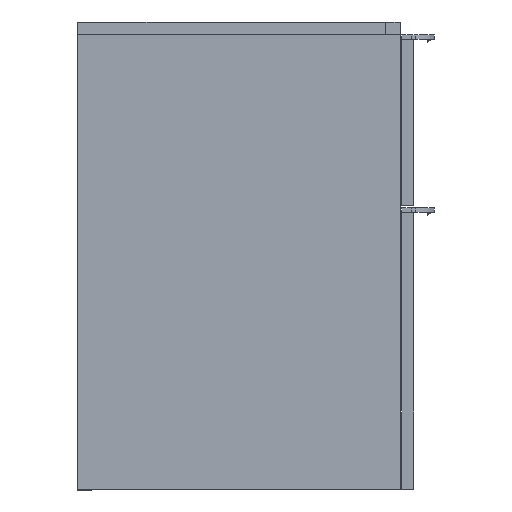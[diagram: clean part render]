
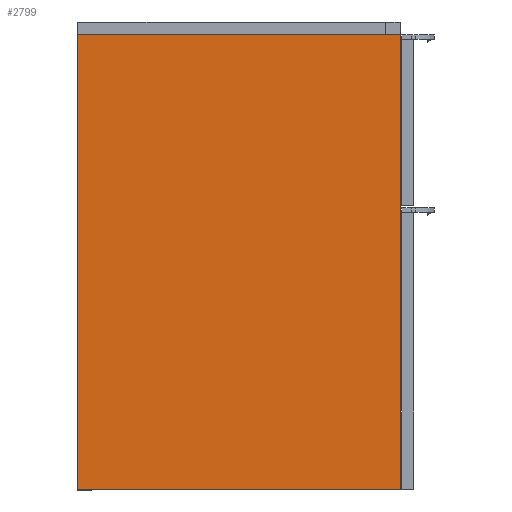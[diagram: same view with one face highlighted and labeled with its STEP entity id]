
A CAD part, left-side view. The second image highlights one B-rep face of the part: STEP entity #2799.
In plain terms, the highlighted planar face has unit normal (-1, 0, 0).
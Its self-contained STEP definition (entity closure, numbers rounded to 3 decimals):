
#107=FACE_OUTER_BOUND('',#266,.T.);
#266=EDGE_LOOP('',(#1735,#1736,#1737,#1738));
#434=LINE('',#3928,#767);
#435=LINE('',#3930,#768);
#436=LINE('',#3932,#769);
#437=LINE('',#3933,#770);
#767=VECTOR('',#3196,10.);
#768=VECTOR('',#3197,10.);
#769=VECTOR('',#3198,10.);
#770=VECTOR('',#3199,10.);
#1100=VERTEX_POINT('',#3926);
#1101=VERTEX_POINT('',#3927);
#1102=VERTEX_POINT('',#3929);
#1103=VERTEX_POINT('',#3931);
#1354=EDGE_CURVE('',#1100,#1101,#434,.T.);
#1355=EDGE_CURVE('',#1100,#1102,#435,.T.);
#1356=EDGE_CURVE('',#1102,#1103,#436,.T.);
#1357=EDGE_CURVE('',#1101,#1103,#437,.T.);
#1735=ORIENTED_EDGE('',*,*,#1354,.F.);
#1736=ORIENTED_EDGE('',*,*,#1355,.T.);
#1737=ORIENTED_EDGE('',*,*,#1356,.T.);
#1738=ORIENTED_EDGE('',*,*,#1357,.F.);
#2494=PLANE('',#2990);
#2799=ADVANCED_FACE('',(#107),#2494,.T.);
#2990=AXIS2_PLACEMENT_3D('',#3925,#3194,#3195);
#3194=DIRECTION('center_axis',(-1.,0.,0.));
#3195=DIRECTION('ref_axis',(0.,0.,-1.));
#3196=DIRECTION('',(0.,0.,1.));
#3197=DIRECTION('',(0.,-1.,0.));
#3198=DIRECTION('',(0.,0.,1.));
#3199=DIRECTION('',(0.,-1.,0.));
#3925=CARTESIAN_POINT('Origin',(-367.,-426.,0.));
#3926=CARTESIAN_POINT('',(-367.,0.,0.));
#3927=CARTESIAN_POINT('',(-367.,0.,600.));
#3928=CARTESIAN_POINT('',(-367.,0.,0.));
#3929=CARTESIAN_POINT('',(-367.,-426.,0.));
#3930=CARTESIAN_POINT('',(-367.,-213.,0.));
#3931=CARTESIAN_POINT('',(-367.,-426.,600.));
#3932=CARTESIAN_POINT('',(-367.,-426.,0.));
#3933=CARTESIAN_POINT('',(-367.,-213.,600.));
